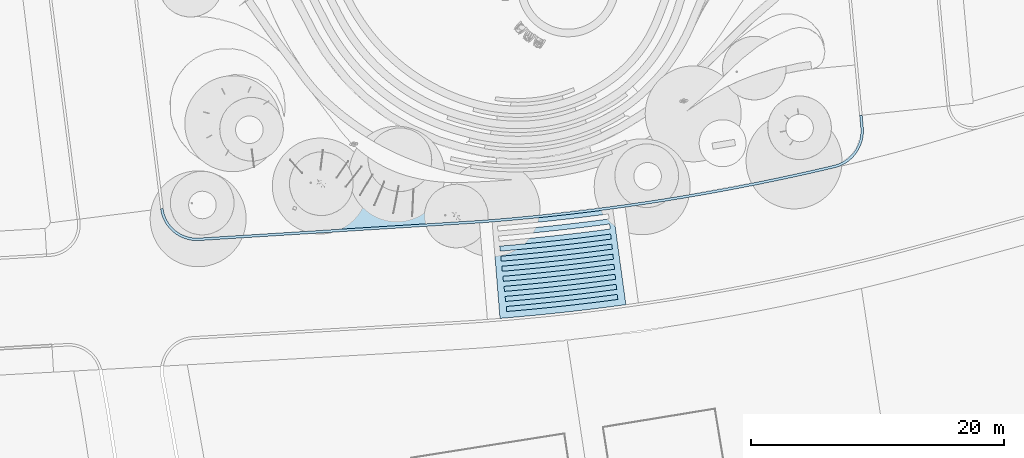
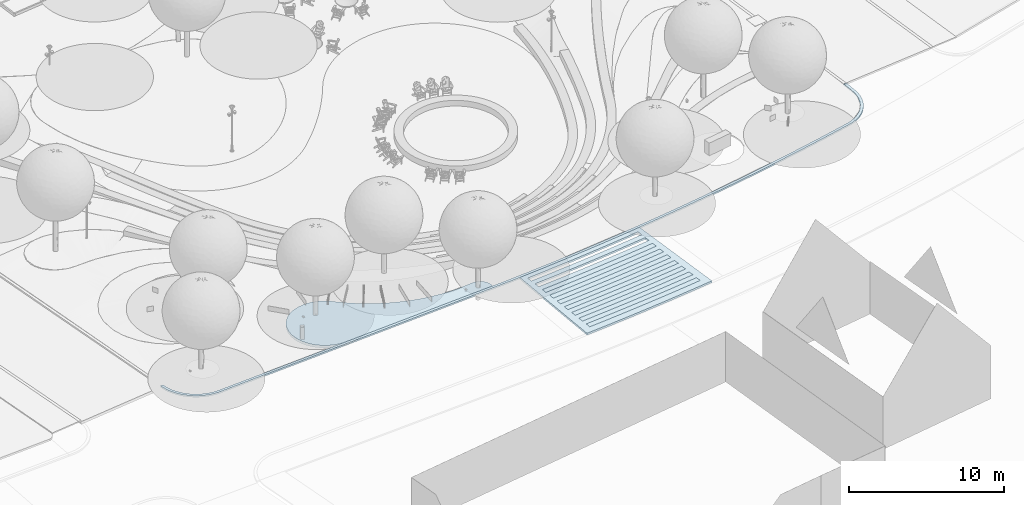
# One storey, part 9 of 75: 10 slabs, 9 openings.
"""IFC2X3 building model written with IfcOpenShell, lengths in metres."""

from ifc_helpers import new_model, entity, si_unit, converted_unit, derived_unit, direction, frame, frame_2d, origin, place, context, subcontext, project, spatial, polyline, circle_curve, parameter, trimmed, segment, composite_curve, outline, extrude, material, layer, layer_set, layer_usage, type_object, element, save


model = new_model("IFC2X3")

# Units and contexts
model_context = context("Model", 3, precision=1e-05, world=origin(), true_north=direction((6.123031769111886e-17, 1.0)))
body_context = subcontext(model_context, "Body", "Model", "MODEL_VIEW")
ifc_project = project(units=[si_unit("LENGTHUNIT", "METRE"), si_unit("AREAUNIT", "SQUARE_METRE"), si_unit("VOLUMEUNIT", "CUBIC_METRE"), converted_unit("PLANEANGLEUNIT", "DEGREE", entity("IfcRatioMeasure", 0.017453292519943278), si_unit("PLANEANGLEUNIT", "RADIAN"), dimensions=[0, 0, 0, 0, 0, 0, 0]), si_unit("MASSUNIT", "GRAM", prefix="KILO"), derived_unit("MASSDENSITYUNIT", [(si_unit("MASSUNIT", "GRAM", prefix="KILO"), 1), (si_unit("LENGTHUNIT", "METRE"), -3)]), derived_unit("IONCONCENTRATIONUNIT", [(si_unit("MASSUNIT", "GRAM", prefix="KILO"), 1), (si_unit("LENGTHUNIT", "METRE"), -3)]), derived_unit("MOMENTOFINERTIAUNIT", [(si_unit("LENGTHUNIT", "METRE"), 4)]), si_unit("TIMEUNIT", "SECOND"), si_unit("FREQUENCYUNIT", "HERTZ"), si_unit("THERMODYNAMICTEMPERATUREUNIT", "DEGREE_CELSIUS"), derived_unit("THERMALTRANSMITTANCEUNIT", [(si_unit("MASSUNIT", "GRAM", prefix="KILO"), 1), (si_unit("THERMODYNAMICTEMPERATUREUNIT", "KELVIN"), -1), (si_unit("TIMEUNIT", "SECOND"), -3)]), derived_unit("THERMALCONDUCTANCEUNIT", [(si_unit("MASSUNIT", "GRAM", prefix="KILO"), 1), (si_unit("THERMODYNAMICTEMPERATUREUNIT", "KELVIN"), -1), (si_unit("TIMEUNIT", "SECOND"), -3), (si_unit("LENGTHUNIT", "METRE"), 1)]), derived_unit("VOLUMETRICFLOWRATEUNIT", [(si_unit("LENGTHUNIT", "METRE"), 3), (si_unit("TIMEUNIT", "SECOND"), -1)]), derived_unit("MASSFLOWRATEUNIT", [(si_unit("MASSUNIT", "GRAM", prefix="KILO"), 1), (si_unit("TIMEUNIT", "SECOND"), -1)]), derived_unit("ROTATIONALFREQUENCYUNIT", [(si_unit("TIMEUNIT", "SECOND"), -1)]), si_unit("ELECTRICCURRENTUNIT", "AMPERE"), si_unit("ELECTRICVOLTAGEUNIT", "VOLT"), si_unit("POWERUNIT", "WATT"), si_unit("FORCEUNIT", "NEWTON", prefix="KILO"), si_unit("ILLUMINANCEUNIT", "LUX"), si_unit("LUMINOUSFLUXUNIT", "LUMEN"), si_unit("LUMINOUSINTENSITYUNIT", "CANDELA"), derived_unit("USERDEFINED", [(si_unit("MASSUNIT", "GRAM", prefix="KILO"), -1), (si_unit("LENGTHUNIT", "METRE"), -2), (si_unit("TIMEUNIT", "SECOND"), 3), (si_unit("LUMINOUSFLUXUNIT", "LUMEN"), 1)]), derived_unit("USERDEFINED", [(si_unit("MASSUNIT", "GRAM", prefix="KILO"), 1), (si_unit("TIMEUNIT", "SECOND"), -3), (si_unit("LENGTHUNIT", "METRE"), 3), (si_unit("ELECTRICCURRENTUNIT", "AMPERE"), -2)]), derived_unit("SOUNDPOWERUNIT", [(si_unit("MASSUNIT", "GRAM", prefix="KILO"), 1), (si_unit("TIMEUNIT", "SECOND"), -3), (si_unit("LENGTHUNIT", "METRE"), 2)]), derived_unit("SOUNDPRESSUREUNIT", [(si_unit("MASSUNIT", "GRAM", prefix="KILO"), 1), (si_unit("LENGTHUNIT", "METRE"), -1), (si_unit("TIMEUNIT", "SECOND"), -2)]), derived_unit("LINEARVELOCITYUNIT", [(si_unit("LENGTHUNIT", "METRE"), 1), (si_unit("TIMEUNIT", "SECOND"), -1)]), si_unit("PRESSUREUNIT", "PASCAL"), derived_unit("USERDEFINED", [(si_unit("MASSUNIT", "GRAM", prefix="KILO"), 1), (si_unit("LENGTHUNIT", "METRE"), -2), (si_unit("TIMEUNIT", "SECOND"), -2)]), derived_unit("LINEARFORCEUNIT", [(si_unit("MASSUNIT", "GRAM", prefix="KILO"), 1), (si_unit("TIMEUNIT", "SECOND"), -2)]), derived_unit("PLANARFORCEUNIT", [(si_unit("MASSUNIT", "GRAM", prefix="KILO"), 1), (si_unit("LENGTHUNIT", "METRE"), -1), (si_unit("TIMEUNIT", "SECOND"), -2)]), derived_unit("SPECIFICHEATCAPACITYUNIT", [(si_unit("THERMODYNAMICTEMPERATUREUNIT", "KELVIN"), -1), (si_unit("LENGTHUNIT", "METRE"), 2), (si_unit("TIMEUNIT", "SECOND"), -2)]), derived_unit("HEATINGVALUEUNIT", [(si_unit("LENGTHUNIT", "METRE"), 2), (si_unit("TIMEUNIT", "SECOND"), -2)]), derived_unit("VAPORPERMEABILITYUNIT", [(si_unit("LENGTHUNIT", "METRE"), -1), (si_unit("TIMEUNIT", "SECOND"), 1)]), derived_unit("DYNAMICVISCOSITYUNIT", [(si_unit("MASSUNIT", "GRAM", prefix="KILO"), 1), (si_unit("TIMEUNIT", "SECOND"), -1), (si_unit("LENGTHUNIT", "METRE"), -1)]), derived_unit("THERMALEXPANSIONCOEFFICIENTUNIT", [(si_unit("THERMODYNAMICTEMPERATUREUNIT", "KELVIN"), -1)]), derived_unit("MODULUSOFELASTICITYUNIT", [(si_unit("MASSUNIT", "GRAM", prefix="KILO"), 1), (si_unit("LENGTHUNIT", "METRE"), -1), (si_unit("TIMEUNIT", "SECOND"), -2)]), derived_unit("ISOTHERMALMOISTURECAPACITYUNIT", [(si_unit("LENGTHUNIT", "METRE"), 3), (si_unit("MASSUNIT", "GRAM", prefix="KILO"), -1)]), derived_unit("MOISTUREDIFFUSIVITYUNIT", [(si_unit("TIMEUNIT", "SECOND"), -1), (si_unit("LENGTHUNIT", "METRE"), 2)])], contexts=[model_context])

# Site, building, storey
site_placement = place(None, origin())
site = spatial("IfcSite", under=ifc_project, at=site_placement, Name="Default", CompositionType="ELEMENT")
building_placement = place(site_placement, origin())
building = spatial("IfcBuilding", under=site, at=building_placement, Name="Projeto", CompositionType="ELEMENT")
storey_placement = place(building_placement, origin())
storey = spatial("IfcBuildingStorey", under=building, at=storey_placement, Name="Nível 1", CompositionType="ELEMENT", Elevation=0.0)

# Slab, openings
ifc_material_1 = material(Name="Piso CAJOI PASSEIO")
ifc_layer_1 = layer(ifc_material_1, 0.14999999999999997)
ifc_layer_set_1 = layer_set([ifc_layer_1], Name="Piso:Basalto Flameado 20x10cm")
ifc_layer_usage_1 = layer_usage(ifc_layer_set_1, "AXIS3", "POSITIVE", 0.0)
slab_type_1 = type_object("IfcSlabType", Name="Piso:Basalto Flameado 20x10cm", PredefinedType="FLOOR", material=ifc_layer_set_1)
slab_1_placement = place(storey_placement, frame((2.7427340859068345, -26.804206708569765, -0.14999999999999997)))
slab_1 = element("IfcSlab", 1, at=slab_1_placement, inside=storey, type_object=slab_type_1, material=ifc_layer_usage_1, Name="Piso:Basalto Flameado 20x10cm", ObjectType="Piso:Basalto Flameado 20x10cm", PredefinedType="FLOOR", context=body_context, shape_type="SweptSolid", body=[
    extrude(outline(composite_curve([segment(trimmed(circle_curve(frame_2d((19.42055363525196, 177.27273742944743), x_axis=(-1.0, 0.0)), 182.20000000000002), [parameter(82.20611730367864)], [parameter(85.35586666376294)], True, "PARAMETER"), True, "CONTINUOUS"), segment(polyline([(4.668422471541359, -4.329064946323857), (5.287550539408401, 3.292530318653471)]), True, "CONTINUOUS"), segment(trimmed(circle_curve(frame_2d((20.23817222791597, 185.27944993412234), x_axis=(-1.0, 0.0)), 182.6), [parameter(82.29263299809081)], [parameter(85.30357337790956)], True, "PARAMETER"), False, "CONTINUOUS"), segment(polyline([(-4.25097174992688, 4.329064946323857), (-5.287550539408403, -3.2441581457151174)]), True, "CONTINUOUS")], self_intersect=False)), frame((5.287550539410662, 4.329064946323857, 0.14999999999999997), z_axis=(0.0, 0.0, -1.0), x_axis=(-1.0, 0.0, 0.0)), (0.0, 0.0, 1.0), 0.14999999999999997),
])
opening_1_placement = place(slab_1_placement, origin())
element("IfcOpeningElement", 2, at=opening_1_placement, cuts=slab_1, Name="Piso:Basalto Flameado 20x10cm", ObjectType="Opening", context=body_context, shape_type="SweptSolid", body=[
    extrude(outline(composite_curve([segment(trimmed(circle_curve(frame_2d((-19.802187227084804, -182.22397339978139), x_axis=(1.0, 0.0)), 183.55000000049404), [parameter(82.4170470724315)], [parameter(85.17898234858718)], True, "PARAMETER"), True, "CONTINUOUS"), segment(polyline([(-4.376025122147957, 0.6766444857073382), (-4.408411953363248, 0.27795585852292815)]), True, "CONTINUOUS"), segment(trimmed(circle_curve(frame_2d((-19.802187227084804, -182.22397339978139), x_axis=(1.0, 0.0)), 183.150000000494), [parameter(82.41750774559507)], [parameter(85.17859603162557)], True, "PARAMETER"), False, "CONTINUOUS"), segment(polyline([(4.365096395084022, -0.6754539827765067), (4.419340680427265, -0.27914636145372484)]), True, "CONTINUOUS")], self_intersect=False)), frame((5.521433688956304, 1.2208350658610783, 0.14999999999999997), z_axis=(0.0, 0.0, -1.0), x_axis=(1.0, 0.0, 0.0)), (0.0, 0.0, 1.0), 0.14999999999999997),
])
opening_2_placement = place(slab_1_placement, origin())
element("IfcOpeningElement", 3, at=opening_2_placement, cuts=slab_1, Name="Piso:Basalto Flameado 20x10cm", ObjectType="Opening", context=body_context, shape_type="SweptSolid", body=[
    extrude(outline(composite_curve([segment(trimmed(circle_curve(frame_2d((-19.802187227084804, -182.2239733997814), x_axis=(1.0, 0.0)), 183.55000000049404), [parameter(82.4170470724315)], [parameter(85.17898234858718)], True, "PARAMETER"), True, "CONTINUOUS"), segment(polyline([(-4.376025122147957, 0.6766444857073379), (-4.408411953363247, 0.27795585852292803)]), True, "CONTINUOUS"), segment(trimmed(circle_curve(frame_2d((-19.802187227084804, -182.2239733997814), x_axis=(1.0, 0.0)), 183.150000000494), [parameter(82.41750774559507)], [parameter(85.17859603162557)], True, "PARAMETER"), False, "CONTINUOUS"), segment(polyline([(4.36509639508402, -0.6754539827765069), (4.419340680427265, -0.27914636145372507)]), True, "CONTINUOUS")], self_intersect=False)), frame((5.4350066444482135, 2.016152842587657, 0.14999999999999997), z_axis=(0.0, 0.0, -1.0), x_axis=(1.0, 0.0, 0.0)), (0.0, 0.0, 1.0), 0.14999999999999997),
])
opening_3_placement = place(slab_1_placement, origin())
element("IfcOpeningElement", 4, at=opening_3_placement, cuts=slab_1, Name="Piso:Basalto Flameado 20x10cm", ObjectType="Opening", context=body_context, shape_type="SweptSolid", body=[
    extrude(outline(composite_curve([segment(trimmed(circle_curve(frame_2d((-19.8021872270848, -182.22397339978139), x_axis=(1.0, 0.0)), 183.55000000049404), [parameter(82.4170470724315)], [parameter(85.17898234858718)], True, "PARAMETER"), True, "CONTINUOUS"), segment(polyline([(-4.376025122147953, 0.6766444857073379), (-4.408411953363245, 0.2779558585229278)]), True, "CONTINUOUS"), segment(trimmed(circle_curve(frame_2d((-19.8021872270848, -182.22397339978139), x_axis=(1.0, 0.0)), 183.150000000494), [parameter(82.41750774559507)], [parameter(85.17859603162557)], True, "PARAMETER"), False, "CONTINUOUS"), segment(polyline([(4.36509639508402, -0.6754539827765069), (4.419340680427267, -0.27914636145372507)]), True, "CONTINUOUS")], self_intersect=False)), frame((5.348579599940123, 2.811470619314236, 0.14999999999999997), z_axis=(0.0, 0.0, -1.0), x_axis=(1.0, 0.0, 0.0)), (0.0, 0.0, 1.0), 0.14999999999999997),
])
opening_4_placement = place(slab_1_placement, origin())
element("IfcOpeningElement", 5, at=opening_4_placement, cuts=slab_1, Name="Piso:Basalto Flameado 20x10cm", ObjectType="Opening", context=body_context, shape_type="SweptSolid", body=[
    extrude(outline(composite_curve([segment(trimmed(circle_curve(frame_2d((-19.8021872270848, -182.22397339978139), x_axis=(1.0, 0.0)), 183.55000000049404), [parameter(82.4170470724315)], [parameter(85.17898234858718)], True, "PARAMETER"), True, "CONTINUOUS"), segment(polyline([(-4.376025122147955, 0.6766444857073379), (-4.408411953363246, 0.2779558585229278)]), True, "CONTINUOUS"), segment(trimmed(circle_curve(frame_2d((-19.8021872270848, -182.22397339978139), x_axis=(1.0, 0.0)), 183.150000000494), [parameter(82.41750774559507)], [parameter(85.17859603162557)], True, "PARAMETER"), False, "CONTINUOUS"), segment(polyline([(4.365096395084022, -0.6754539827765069), (4.419340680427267, -0.27914636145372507)]), True, "CONTINUOUS")], self_intersect=False)), frame((5.262152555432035, 3.6067883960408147, 0.14999999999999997), z_axis=(0.0, 0.0, -1.0), x_axis=(1.0, 0.0, 0.0)), (0.0, 0.0, 1.0), 0.14999999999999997),
])
opening_5_placement = place(slab_1_placement, origin())
element("IfcOpeningElement", 6, at=opening_5_placement, cuts=slab_1, Name="Piso:Basalto Flameado 20x10cm", ObjectType="Opening", context=body_context, shape_type="SweptSolid", body=[
    extrude(outline(composite_curve([segment(trimmed(circle_curve(frame_2d((-19.802187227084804, -182.2239733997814), x_axis=(1.0, 0.0)), 183.55000000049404), [parameter(82.4170470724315)], [parameter(85.17898234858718)], True, "PARAMETER"), True, "CONTINUOUS"), segment(polyline([(-4.376025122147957, 0.6766444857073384), (-4.408411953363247, 0.2779558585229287)]), True, "CONTINUOUS"), segment(trimmed(circle_curve(frame_2d((-19.802187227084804, -182.2239733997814), x_axis=(1.0, 0.0)), 183.150000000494), [parameter(82.41750774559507)], [parameter(85.17859603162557)], True, "PARAMETER"), False, "CONTINUOUS"), segment(polyline([(4.36509639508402, -0.6754539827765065), (4.419340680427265, -0.2791463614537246)]), True, "CONTINUOUS")], self_intersect=False)), frame((5.175725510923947, 4.402106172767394, 0.14999999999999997), z_axis=(0.0, 0.0, -1.0), x_axis=(1.0, 0.0, 0.0)), (0.0, 0.0, 1.0), 0.14999999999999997),
])
opening_6_placement = place(slab_1_placement, origin())
element("IfcOpeningElement", 7, at=opening_6_placement, cuts=slab_1, Name="Piso:Basalto Flameado 20x10cm", ObjectType="Opening", context=body_context, shape_type="SweptSolid", body=[
    extrude(outline(composite_curve([segment(trimmed(circle_curve(frame_2d((-19.802187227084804, -182.22397339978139), x_axis=(1.0, 0.0)), 183.55000000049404), [parameter(82.4170470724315)], [parameter(85.17898234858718)], True, "PARAMETER"), True, "CONTINUOUS"), segment(polyline([(-4.376025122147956, 0.6766444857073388), (-4.408411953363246, 0.2779558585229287)]), True, "CONTINUOUS"), segment(trimmed(circle_curve(frame_2d((-19.802187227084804, -182.22397339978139), x_axis=(1.0, 0.0)), 183.150000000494), [parameter(82.41750774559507)], [parameter(85.17859603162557)], True, "PARAMETER"), False, "CONTINUOUS"), segment(polyline([(4.365096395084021, -0.6754539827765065), (4.419340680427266, -0.2791463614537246)]), True, "CONTINUOUS")], self_intersect=False)), frame((5.089298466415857, 5.197423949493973, 0.14999999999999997), z_axis=(0.0, 0.0, -1.0), x_axis=(1.0, 0.0, 0.0)), (0.0, 0.0, 1.0), 0.14999999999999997),
])
opening_7_placement = place(slab_1_placement, origin())
element("IfcOpeningElement", 8, at=opening_7_placement, cuts=slab_1, Name="Piso:Basalto Flameado 20x10cm", ObjectType="Opening", context=body_context, shape_type="SweptSolid", body=[
    extrude(outline(composite_curve([segment(trimmed(circle_curve(frame_2d((-19.8021872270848, -182.2239733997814), x_axis=(1.0, 0.0)), 183.55000000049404), [parameter(82.4170470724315)], [parameter(85.17898234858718)], True, "PARAMETER"), True, "CONTINUOUS"), segment(polyline([(-4.376025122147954, 0.6766444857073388), (-4.408411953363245, 0.2779558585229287)]), True, "CONTINUOUS"), segment(trimmed(circle_curve(frame_2d((-19.8021872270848, -182.2239733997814), x_axis=(1.0, 0.0)), 183.150000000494), [parameter(82.41750774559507)], [parameter(85.17859603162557)], True, "PARAMETER"), False, "CONTINUOUS"), segment(polyline([(4.365096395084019, -0.6754539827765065), (4.4193406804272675, -0.2791463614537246)]), True, "CONTINUOUS")], self_intersect=False)), frame((5.002871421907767, 5.992741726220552, 0.14999999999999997), z_axis=(0.0, 0.0, -1.0), x_axis=(1.0, 0.0, 0.0)), (0.0, 0.0, 1.0), 0.14999999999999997),
])
opening_8_placement = place(slab_1_placement, origin())
element("IfcOpeningElement", 9, at=opening_8_placement, cuts=slab_1, Name="Piso:Basalto Flameado 20x10cm", ObjectType="Opening", context=body_context, shape_type="SweptSolid", body=[
    extrude(outline(composite_curve([segment(trimmed(circle_curve(frame_2d((-19.802187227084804, -182.22397339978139), x_axis=(1.0, 0.0)), 183.55000000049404), [parameter(82.4170470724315)], [parameter(85.17898234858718)], True, "PARAMETER"), True, "CONTINUOUS"), segment(polyline([(-4.376025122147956, 0.6766444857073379), (-4.408411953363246, 0.2779558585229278)]), True, "CONTINUOUS"), segment(trimmed(circle_curve(frame_2d((-19.802187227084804, -182.22397339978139), x_axis=(1.0, 0.0)), 183.150000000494), [parameter(82.41750774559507)], [parameter(85.17859603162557)], True, "PARAMETER"), False, "CONTINUOUS"), segment(polyline([(4.365096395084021, -0.6754539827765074), (4.419340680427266, -0.2791463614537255)]), True, "CONTINUOUS")], self_intersect=False)), frame((4.916444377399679, 6.78805950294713, 0.14999999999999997), z_axis=(0.0, 0.0, -1.0), x_axis=(1.0, 0.0, 0.0)), (0.0, 0.0, 1.0), 0.14999999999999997),
])
opening_9_placement = place(slab_1_placement, origin())
element("IfcOpeningElement", 10, at=opening_9_placement, cuts=slab_1, Name="Piso:Basalto Flameado 20x10cm", ObjectType="Opening", context=body_context, shape_type="SweptSolid", body=[
    extrude(outline(composite_curve([segment(trimmed(circle_curve(frame_2d((-19.802187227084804, -182.2239733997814), x_axis=(1.0, 0.0)), 183.55000000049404), [parameter(82.4170470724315)], [parameter(85.17898234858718)], True, "PARAMETER"), True, "CONTINUOUS"), segment(polyline([(-4.376025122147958, 0.6766444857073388), (-4.408411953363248, 0.2779558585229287)]), True, "CONTINUOUS"), segment(trimmed(circle_curve(frame_2d((-19.802187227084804, -182.2239733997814), x_axis=(1.0, 0.0)), 183.150000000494), [parameter(82.41750774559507)], [parameter(85.17859603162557)], True, "PARAMETER"), False, "CONTINUOUS"), segment(polyline([(4.365096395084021, -0.6754539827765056), (4.419340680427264, -0.2791463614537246)]), True, "CONTINUOUS")], self_intersect=False)), frame((4.830017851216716, 7.583377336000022, 0.14999999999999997), z_axis=(0.0, 0.0, -1.0), x_axis=(1.0, 0.0, 0.0)), (0.0, 0.0, 1.0), 0.14999999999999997),
])

# Slabs
ifc_material_2 = material(Name="Concreto moldado In loco")
ifc_layer_2 = layer(ifc_material_2, 0.12)
ifc_layer_set_2 = layer_set([ifc_layer_2], Name="Piso:meio fio de concreto")
ifc_layer_usage_2 = layer_usage(ifc_layer_set_2, "AXIS3", "POSITIVE", 0.0)
slab_type_2 = type_object("IfcSlabType", Name="Piso:meio fio de concreto", PredefinedType="FLOOR", material=ifc_layer_set_2)
slab_2_placement = place(storey_placement, frame((-32.49151896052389, -30.854733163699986, -0.12)))
element("IfcSlab", 11, at=slab_2_placement, inside=storey, type_object=slab_type_2, material=ifc_layer_usage_2, Name="Piso:meio fio de concreto", ObjectType="Piso:meio fio de concreto", PredefinedType="FLOOR", context=body_context, shape_type="SweptSolid", body=[
    extrude(outline(composite_curve([segment(polyline([(7.587659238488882, 0.8504458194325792), (29.959942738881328, -0.5537203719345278)]), True, "CONTINUOUS"), segment(trimmed(circle_curve(frame_2d((30.141599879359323, 2.3405844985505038), x_axis=(-1.0, 0.0)), 2.9000000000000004), [parameter(86.40861856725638)], [parameter(172.32462165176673)], True, "PARAMETER"), True, "CONTINUOUS"), segment(polyline([(33.015617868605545, 1.9532595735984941), (32.81719358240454, 1.9783713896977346)]), True, "CONTINUOUS"), segment(trimmed(circle_curve(frame_2d((30.141599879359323, 2.3405844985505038), x_axis=(-1.0, 0.0)), 2.7), [parameter(86.40861856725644)], [parameter(172.29035496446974)], True, "PARAMETER"), False, "CONTINUOUS"), segment(polyline([(29.972470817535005, -0.35411313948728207), (7.601679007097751, 1.0499594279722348)]), True, "CONTINUOUS"), segment(trimmed(circle_curve(frame_2d((21.747446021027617, 182.90060494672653), x_axis=(-1.0, 0.0)), 182.4), [parameter(76.70298553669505)], [parameter(85.55204269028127)], True, "PARAMETER"), False, "CONTINUOUS"), segment(trimmed(circle_curve(frame_2d((-19.560379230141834, 8.115526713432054), x_axis=(-1.0, 0.0)), 2.8000000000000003), [parameter(354.78331791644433)], [parameter(76.70298553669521)], True, "PARAMETER"), False, "CONTINUOUS"), segment(polyline([(-22.348781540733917, 8.37010981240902), (-22.260416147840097, 9.33795986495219)]), True, "CONTINUOUS"), segment(polyline([(-22.260416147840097, 9.33795986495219), (-22.459301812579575, 9.359276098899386)]), True, "CONTINUOUS"), segment(polyline([(-22.459301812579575, 9.359276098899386), (-22.54795313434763, 8.388294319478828)]), True, "CONTINUOUS"), segment(trimmed(circle_curve(frame_2d((-19.560379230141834, 8.115526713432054), x_axis=(-1.0, 0.0)), 3.0000000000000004), [parameter(354.7833179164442)], [parameter(76.70298553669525)], True, "PARAMETER"), True, "CONTINUOUS"), segment(trimmed(circle_curve(frame_2d((21.747446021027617, 182.90060494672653), x_axis=(-1.0, 0.0)), 182.6), [parameter(76.70298553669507)], [parameter(85.55251192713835)], True, "PARAMETER"), True, "CONTINUOUS")], self_intersect=False)), frame((42.031077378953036, 10.758436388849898, 0.12), z_axis=(0.0, 0.0, -1.0), x_axis=(-1.0, 0.0, 0.0)), (0.0, 0.0, 1.0), 0.12),
])
ifc_material_3 = material(Name="floração tipo 1")
ifc_layer_3 = layer(ifc_material_3, 0.04)
ifc_layer_4 = layer(ifc_material_3, 0.16)
ifc_layer_set_3 = layer_set([ifc_layer_3, ifc_layer_4], Name="Piso:Floração tipo 1")
ifc_layer_usage_3 = layer_usage(ifc_layer_set_3, "AXIS3", "POSITIVE", 0.0)
slab_type_3 = type_object("IfcSlabType", Name="Piso:Floração tipo 1", PredefinedType="FLOOR", material=ifc_layer_set_3)
slab_3_placement = place(storey_placement, origin())
element("IfcSlab", 12, at=slab_3_placement, inside=storey, type_object=slab_type_3, material=ifc_layer_usage_3, Name="Piso:Floração tipo 1", ObjectType="Piso:Floração tipo 1", PredefinedType="FLOOR", context=body_context, shape_type="SweptSolid", body=[
    extrude(outline(composite_curve([segment(trimmed(circle_curve(frame_2d((-0.5346007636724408, 5.918723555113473), x_axis=(1.0, 0.0)), 2.510060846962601), [parameter(0.0)], [parameter(219.34841977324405)], True, "PARAMETER"), True, "CONTINUOUS"), segment(trimmed(circle_curve(frame_2d((-10.878418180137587, -2.5622005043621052), x_axis=(0.7733046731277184, 0.634034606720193)), 10.866060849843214), [parameter(309.9391288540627)], [parameter(0.0)], True, "PARAMETER"), False, "CONTINUOUS"), segment(trimmed(circle_curve(frame_2d((0.6948068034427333, -4.751589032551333), x_axis=(-0.9825724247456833, 0.18588014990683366)), 0.9124347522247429), [parameter(0.0)], [parameter(101.15842682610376)], True, "PARAMETER"), True, "CONTINUOUS"), segment(polyline([(0.7019088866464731, -5.663996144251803), (1.9754600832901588, 5.918723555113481)]), True, "CONTINUOUS")], self_intersect=False)), frame((-4.859264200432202, -18.15361497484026, 0.0), z_axis=(0.0, 0.0, -1.0), x_axis=(-0.046814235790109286, -0.9989036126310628, 0.0)), (0.0, 0.0, 1.0), 0.19999999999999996),
])
ifc_material_4 = material(Name="Cristal Pool")
ifc_layer_5 = layer(ifc_material_4, 0.16)
ifc_layer_set_4 = layer_set([ifc_layer_5], Name="Piso:faixa")
ifc_layer_usage_4 = layer_usage(ifc_layer_set_4, "AXIS3", "POSITIVE", 0.0)
slab_type_4 = type_object("IfcSlabType", Name="Piso:faixa", PredefinedType="FLOOR", material=ifc_layer_set_4)
slab_4_placement = place(storey_placement, frame((3.164339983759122, -26.260016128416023, -0.16)))
element("IfcSlab", 13, at=slab_4_placement, inside=storey, type_object=slab_type_4, material=ifc_layer_usage_4, Name="Piso:faixa:3", ObjectType="Piso:faixa", PredefinedType="FLOOR", context=body_context, shape_type="SweptSolid", body=[
    extrude(outline(composite_curve([segment(polyline([(-4.19766538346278, 2.266984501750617), (-4.251909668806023, 1.870676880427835)]), True, "CONTINUOUS"), segment(trimmed(circle_curve(frame_2d((19.969618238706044, 183.8155039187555), x_axis=(-1.0, 0.0)), 183.55000000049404), [parameter(82.4170470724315)], [parameter(85.17898234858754)], True, "PARAMETER"), True, "CONTINUOUS"), segment(polyline([(4.543456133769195, 0.9148860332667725), (4.575842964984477, 1.3135746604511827)]), True, "CONTINUOUS"), segment(trimmed(circle_curve(frame_2d((19.969618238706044, 183.8155039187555), x_axis=(-1.0, 0.0)), 183.150000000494), [parameter(82.41750774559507)], [parameter(85.17859603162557)], True, "PARAMETER"), False, "CONTINUOUS")], self_intersect=False)), frame((4.7486965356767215, 3.8570206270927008, 0.16), z_axis=(0.0, 0.0, -1.0), x_axis=(-1.0, 0.0, 0.0)), (0.0, 0.0, 1.0), 0.16000000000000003),
])
slab_5_placement = place(storey_placement, frame((3.164339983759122, -26.260016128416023, -0.16)))
element("IfcSlab", 14, at=slab_5_placement, inside=storey, type_object=slab_type_4, material=ifc_layer_usage_4, Name="Piso:faixa:4", ObjectType="Piso:faixa", PredefinedType="FLOOR", context=body_context, shape_type="SweptSolid", body=[
    extrude(outline(composite_curve([segment(polyline([(-4.284092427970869, 1.471666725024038), (-4.338336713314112, 1.0753591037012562)]), True, "CONTINUOUS"), segment(trimmed(circle_curve(frame_2d((19.883191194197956, 183.02018614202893), x_axis=(-1.0, 0.0)), 183.55000000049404), [parameter(82.4170470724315)], [parameter(85.17898234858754)], True, "PARAMETER"), True, "CONTINUOUS"), segment(polyline([(4.4570290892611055, 0.11956825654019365), (4.489415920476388, 0.5182568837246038)]), True, "CONTINUOUS"), segment(trimmed(circle_curve(frame_2d((19.883191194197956, 183.02018614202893), x_axis=(-1.0, 0.0)), 183.150000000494), [parameter(82.41750774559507)], [parameter(85.17859603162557)], True, "PARAMETER"), False, "CONTINUOUS")], self_intersect=False)), frame((4.7486965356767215, 3.8570206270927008, 0.16), z_axis=(0.0, 0.0, -1.0), x_axis=(-1.0, 0.0, 0.0)), (0.0, 0.0, 1.0), 0.16000000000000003),
])
slab_6_placement = place(storey_placement, frame((3.164339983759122, -26.260016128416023, -0.16)))
element("IfcSlab", 15, at=slab_6_placement, inside=storey, type_object=slab_type_4, material=ifc_layer_usage_4, Name="Piso:faixa:5", ObjectType="Piso:faixa", PredefinedType="FLOOR", context=body_context, shape_type="SweptSolid", body=[
    extrude(outline(composite_curve([segment(polyline([(-4.370519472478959, 0.6763489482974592), (-4.424763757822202, 0.2800413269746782)]), True, "CONTINUOUS"), segment(trimmed(circle_curve(frame_2d((19.796764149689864, 182.22486836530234), x_axis=(-1.0, 0.0)), 183.55000000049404), [parameter(82.4170470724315)], [parameter(85.17898234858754)], True, "PARAMETER"), True, "CONTINUOUS"), segment(polyline([(4.370602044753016, -0.6757495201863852), (4.4029888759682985, -0.2770608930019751)]), True, "CONTINUOUS"), segment(trimmed(circle_curve(frame_2d((19.796764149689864, 182.22486836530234), x_axis=(-1.0, 0.0)), 183.150000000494), [parameter(82.41750774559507)], [parameter(85.17859603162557)], True, "PARAMETER"), False, "CONTINUOUS")], self_intersect=False)), frame((4.7486965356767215, 3.8570206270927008, 0.16), z_axis=(0.0, 0.0, -1.0), x_axis=(-1.0, 0.0, 0.0)), (0.0, 0.0, 1.0), 0.16000000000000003),
])
slab_7_placement = place(storey_placement, frame((3.164339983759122, -26.260016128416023, -0.16)))
element("IfcSlab", 16, at=slab_7_placement, inside=storey, type_object=slab_type_4, material=ifc_layer_usage_4, Name="Piso:faixa:6", ObjectType="Piso:faixa", PredefinedType="FLOOR", context=body_context, shape_type="SweptSolid", body=[
    extrude(outline(composite_curve([segment(polyline([(-4.456946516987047, -0.11896882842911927), (-4.51119080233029, -0.5152764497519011)]), True, "CONTINUOUS"), segment(trimmed(circle_curve(frame_2d((19.71033710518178, 181.42955058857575), x_axis=(-1.0, 0.0)), 183.55000000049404), [parameter(82.4170470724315)], [parameter(85.17898234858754)], True, "PARAMETER"), True, "CONTINUOUS"), segment(polyline([(4.284175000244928, -1.4710672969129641), (4.31656183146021, -1.072378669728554)]), True, "CONTINUOUS"), segment(trimmed(circle_curve(frame_2d((19.71033710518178, 181.42955058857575), x_axis=(-1.0, 0.0)), 183.150000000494), [parameter(82.41750774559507)], [parameter(85.17859603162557)], True, "PARAMETER"), False, "CONTINUOUS")], self_intersect=False)), frame((4.7486965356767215, 3.8570206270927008, 0.16), z_axis=(0.0, 0.0, -1.0), x_axis=(-1.0, 0.0, 0.0)), (0.0, 0.0, 1.0), 0.16000000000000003),
])
slab_8_placement = place(storey_placement, frame((3.164339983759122, -26.260016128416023, -0.16)))
element("IfcSlab", 17, at=slab_8_placement, inside=storey, type_object=slab_type_4, material=ifc_layer_usage_4, Name="Piso:faixa:7", ObjectType="Piso:faixa", PredefinedType="FLOOR", context=body_context, shape_type="SweptSolid", body=[
    extrude(outline(composite_curve([segment(polyline([(-4.543373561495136, -0.9142866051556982), (-4.597617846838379, -1.31059422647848)]), True, "CONTINUOUS"), segment(trimmed(circle_curve(frame_2d((19.623910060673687, 180.6342328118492), x_axis=(-1.0, 0.0)), 183.55000000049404), [parameter(82.4170470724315)], [parameter(85.17898234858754)], True, "PARAMETER"), True, "CONTINUOUS"), segment(polyline([(4.197747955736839, -2.266385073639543), (4.230134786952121, -1.8676964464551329)]), True, "CONTINUOUS"), segment(trimmed(circle_curve(frame_2d((19.623910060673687, 180.6342328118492), x_axis=(-1.0, 0.0)), 183.150000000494), [parameter(82.41750774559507)], [parameter(85.17859603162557)], True, "PARAMETER"), False, "CONTINUOUS")], self_intersect=False)), frame((4.7486965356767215, 3.8570206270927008, 0.16), z_axis=(0.0, 0.0, -1.0), x_axis=(-1.0, 0.0, 0.0)), (0.0, 0.0, 1.0), 0.16000000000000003),
])
slab_9_placement = place(storey_placement, frame((3.164339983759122, -26.260016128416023, -0.16)))
element("IfcSlab", 18, at=slab_9_placement, inside=storey, type_object=slab_type_4, material=ifc_layer_usage_4, Name="Piso:faixa:8", ObjectType="Piso:faixa", PredefinedType="FLOOR", context=body_context, shape_type="SweptSolid", body=[
    extrude(outline(composite_curve([segment(polyline([(-4.629800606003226, -1.709604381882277), (-4.684044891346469, -2.105912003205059)]), True, "CONTINUOUS"), segment(trimmed(circle_curve(frame_2d((19.5374830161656, 179.8389150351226), x_axis=(-1.0, 0.0)), 183.55000000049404), [parameter(82.4170470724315)], [parameter(85.17898234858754)], True, "PARAMETER"), True, "CONTINUOUS"), segment(polyline([(4.111320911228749, -3.061702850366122), (4.143707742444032, -2.6630142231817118)]), True, "CONTINUOUS"), segment(trimmed(circle_curve(frame_2d((19.5374830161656, 179.8389150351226), x_axis=(-1.0, 0.0)), 183.150000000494), [parameter(82.41750774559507)], [parameter(85.17859603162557)], True, "PARAMETER"), False, "CONTINUOUS")], self_intersect=False)), frame((4.7486965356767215, 3.8570206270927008, 0.16), z_axis=(0.0, 0.0, -1.0), x_axis=(-1.0, 0.0, 0.0)), (0.0, 0.0, 1.0), 0.16000000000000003),
])
slab_10_placement = place(storey_placement, frame((3.164339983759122, -26.260016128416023, -0.16)))
element("IfcSlab", 19, at=slab_10_placement, inside=storey, type_object=slab_type_4, material=ifc_layer_usage_4, Name="Piso:faixa:9", ObjectType="Piso:faixa", PredefinedType="FLOOR", context=body_context, shape_type="SweptSolid", body=[
    extrude(outline(composite_curve([segment(polyline([(-4.716227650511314, -2.504922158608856), (-4.770471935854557, -2.9012297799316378)]), True, "CONTINUOUS"), segment(trimmed(circle_curve(frame_2d((19.45105597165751, 179.04359725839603), x_axis=(-1.0, 0.0)), 183.55000000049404), [parameter(82.4170470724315)], [parameter(85.17898234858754)], True, "PARAMETER"), True, "CONTINUOUS"), segment(polyline([(4.024893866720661, -3.8570206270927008), (4.057280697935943, -3.4583319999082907)]), True, "CONTINUOUS"), segment(trimmed(circle_curve(frame_2d((19.45105597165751, 179.04359725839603), x_axis=(-1.0, 0.0)), 183.150000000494), [parameter(82.41750774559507)], [parameter(85.17859603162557)], True, "PARAMETER"), False, "CONTINUOUS")], self_intersect=False)), frame((4.7486965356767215, 3.8570206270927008, 0.16), z_axis=(0.0, 0.0, -1.0), x_axis=(-1.0, 0.0, 0.0)), (0.0, 0.0, 1.0), 0.16000000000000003),
])

save(model, "model.ifc")
